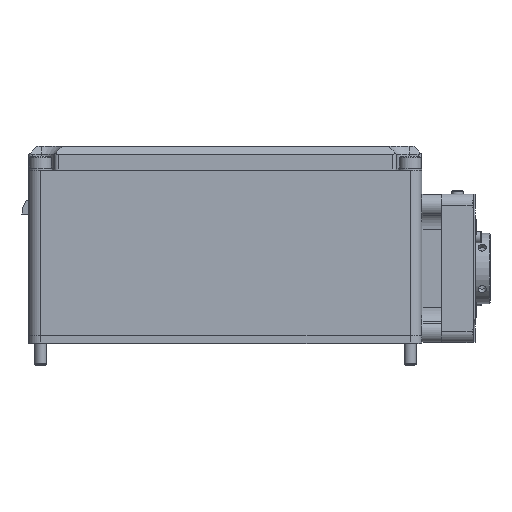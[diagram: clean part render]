
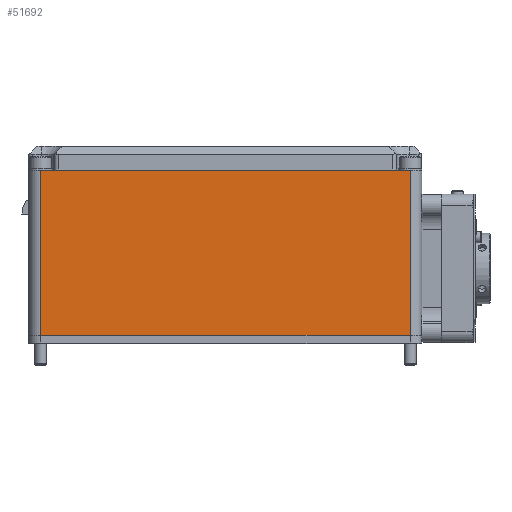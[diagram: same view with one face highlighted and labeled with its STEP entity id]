
A CAD part, top view. The second image highlights one B-rep face of the part: STEP entity #51692.
In plain terms, the highlighted planar face has unit normal (0, 0, 1).
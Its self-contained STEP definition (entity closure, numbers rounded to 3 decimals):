
#5279 = DIRECTION ( 'NONE',  ( 1., 0., 0. ) ) ;
#8548 = DIRECTION ( 'NONE',  ( 1., 0., 0. ) ) ;
#13062 = CARTESIAN_POINT ( 'NONE',  ( 47., -42., 67.5 ) ) ;
#18431 = ORIENTED_EDGE ( 'NONE', *, *, #42697, .T. ) ;
#19956 = FACE_OUTER_BOUND ( 'NONE', #27579, .T. ) ;
#23464 = LINE ( 'NONE', #117446, #115144 ) ;
#27579 = EDGE_LOOP ( 'NONE', ( #18431, #113558, #84845, #106680 ) ) ;
#32274 = VERTEX_POINT ( 'NONE', #57593 ) ;
#32409 = CARTESIAN_POINT ( 'NONE',  ( -47., -42., 67.5 ) ) ;
#35264 = DIRECTION ( 'NONE',  ( 0., 1., 0. ) ) ;
#39446 = PLANE ( 'NONE',  #95513 ) ;
#42697 = EDGE_CURVE ( 'NONE', #103378, #32274, #106501, .T. ) ;
#46829 = CARTESIAN_POINT ( 'NONE',  ( -47., 0., 67.5 ) ) ;
#51431 = CARTESIAN_POINT ( 'NONE',  ( -47., 0., 67.5 ) ) ;
#51692 = ADVANCED_FACE ( 'NONE', ( #19956 ), #39446, .T. ) ;
#56087 = CARTESIAN_POINT ( 'NONE',  ( 47., -42., 67.5 ) ) ;
#56750 = VECTOR ( 'NONE', #35264, 1000. ) ;
#57593 = CARTESIAN_POINT ( 'NONE',  ( 47., 0., 67.5 ) ) ;
#58954 = DIRECTION ( 'NONE',  ( 0., 0., 1. ) ) ;
#59270 = VECTOR ( 'NONE', #64823, 1000. ) ;
#61405 = VERTEX_POINT ( 'NONE', #82286 ) ;
#64823 = DIRECTION ( 'NONE',  ( 1., 0., 0. ) ) ;
#68445 = EDGE_CURVE ( 'NONE', #89767, #61405, #92251, .T. ) ;
#70724 = DIRECTION ( 'NONE',  ( 0., -1., 0. ) ) ;
#74395 = EDGE_CURVE ( 'NONE', #61405, #103378, #23464, .T. ) ;
#79128 = CARTESIAN_POINT ( 'NONE',  ( 50., -42., 67.5 ) ) ;
#82286 = CARTESIAN_POINT ( 'NONE',  ( -47., -42., 67.5 ) ) ;
#82344 = LINE ( 'NONE', #51431, #59270 ) ;
#83657 = VECTOR ( 'NONE', #70724, 1000. ) ;
#84845 = ORIENTED_EDGE ( 'NONE', *, *, #68445, .T. ) ;
#89767 = VERTEX_POINT ( 'NONE', #46829 ) ;
#92251 = LINE ( 'NONE', #32409, #83657 ) ;
#95513 = AXIS2_PLACEMENT_3D ( 'NONE', #79128, #58954, #8548 ) ;
#103378 = VERTEX_POINT ( 'NONE', #13062 ) ;
#106501 = LINE ( 'NONE', #56087, #56750 ) ;
#106680 = ORIENTED_EDGE ( 'NONE', *, *, #74395, .T. ) ;
#111697 = EDGE_CURVE ( 'NONE', #89767, #32274, #82344, .T. ) ;
#113558 = ORIENTED_EDGE ( 'NONE', *, *, #111697, .F. ) ;
#115144 = VECTOR ( 'NONE', #5279, 1000. ) ;
#117446 = CARTESIAN_POINT ( 'NONE',  ( 50., -42., 67.5 ) ) ;
